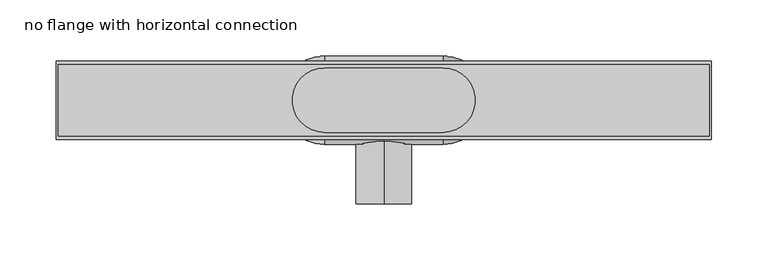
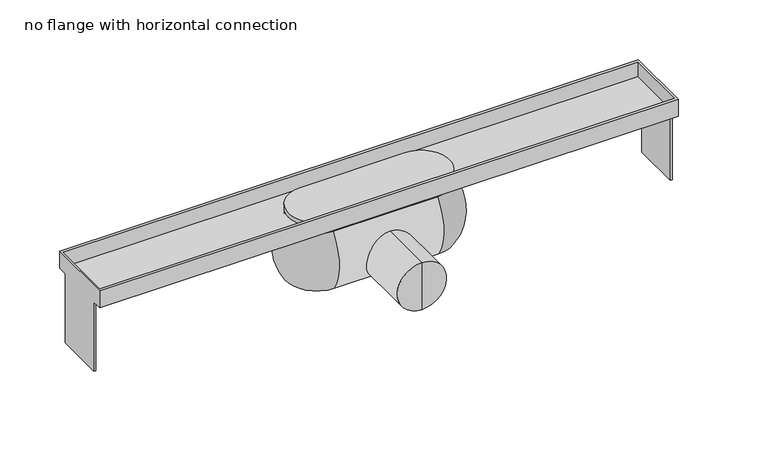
"""IFC4 building model written with IfcOpenShell, lengths in millimetres: sanitary terminal geometry, PF_UN_ShowerDrain C (INT)_ACO : no flange with horizontal connection."""

from ifc_helpers import new_model, si_unit, point, frame, origin, place, context, project, spatial, circle_curve, ellipse_curve, trimmed, faceted_brep, source, transform, mapped, element, save
from ifc_brep_helpers import plane_surface, cylinder_surface, revolved_surface, advanced_brep


def no_flange_with_horizontal_connection_4faf3c92(model_context):
    return source(origin(), model_context, "Body", "SolidModel", [
        advanced_brep(
        [(-52.8420194, -28.757915, 0.0), (-52.8420194, 28.757915, 0.0), (-52.8420194, 28.757915, -11.7509027), (-52.8420194, -28.757915, -11.7509027), (-52.8420194, 20.3622022, -75.4877048), (-52.8420194, -20.3622022, -75.4877048), (-52.8420194, -30.8518848, -71.7143523), (-52.8420194, 30.8518848, -71.7143523), (52.8420194, -28.757915, 0.0), (52.8420194, -28.757915, -11.7509027), (52.8420194, -30.8518848, -71.7143523), (52.8420194, -20.3622022, -75.4877048), (52.8420194, 20.3622022, -75.4877048), (52.8420194, 30.8518848, -71.7143523), (52.8420194, 28.757915, -11.7509027), (52.8420194, 28.757915, 0.0)],
        [
            (0, 1, circle_curve(frame((-52.8420194, 0.0, 0.0), z_axis=(0.0, 0.0, -1.0), x_axis=(0.0, 1.0, 0.0)), 28.757915)),
            (1, 2),
            (2, 3, circle_curve(frame((-52.8420194, 0.0, -11.7509027), z_axis=(0.0, 0.0, 1.0), x_axis=(0.0, 1.0, 0.0)), 28.757915)),
            (3, 0),
            (4, 5, circle_curve(frame((-52.8420194, 0.0, -75.4877048), z_axis=(0.0, 0.0, 1.0), x_axis=(0.0, 1.0, 0.0)), 20.3622022)),
            (5, 6, circle_curve(frame((-52.8420194, -20.3622022, -59.0206997), z_axis=(-1.0, 0.0, 0.0), x_axis=(0.0, 1.0, 0.0)), 16.4670051)),
            (6, 7, circle_curve(frame((-52.8420194, 0.0, -71.7143523), z_axis=(0.0, 0.0, -1.0), x_axis=(0.0, 1.0, 0.0)), 30.8518848)),
            (7, 4, circle_curve(frame((-52.8420194, 20.3622022, -59.0206997), z_axis=(-1.0, 0.0, 0.0), x_axis=(0.0, -1.0, 0.0)), 16.4670051)),
            (2, 7, circle_curve(frame((-52.8420194, -11.2789491, -43.1673071), z_axis=(-1.0, 0.0, 0.0), x_axis=(0.0, -1.0, 0.0)), 50.8914625)),
            (6, 3, circle_curve(frame((-52.8420194, 11.2789491, -43.1673071), z_axis=(-1.0, 0.0, 0.0), x_axis=(0.0, 1.0, 0.0)), 50.8914625)),
            (8, 0),
            (3, 9),
            (9, 8),
            (6, 10),
            (10, 9, circle_curve(frame((52.8420194, 11.2789491, -43.1673071), z_axis=(-1.0, 0.0, 0.0), x_axis=(0.0, 1.0, 0.0)), 50.8914625)),
            (5, 11),
            (11, 10, circle_curve(frame((52.8420194, -20.3622022, -59.0206997), z_axis=(-1.0, 0.0, 0.0), x_axis=(0.0, 1.0, 0.0)), 16.4670051)),
            (4, 12),
            (12, 11, circle_curve(frame((52.8420194, 0.0, -75.4877048), z_axis=(0.0, 0.0, -1.0), x_axis=(0.0, 1.0, 0.0)), 20.3622022)),
            (7, 13),
            (13, 12, circle_curve(frame((52.8420194, 20.3622022, -59.0206997), z_axis=(-1.0, 0.0, 0.0), x_axis=(0.0, -1.0, 0.0)), 16.4670051)),
            (2, 14),
            (14, 13, circle_curve(frame((52.8420194, -11.2789491, -43.1673071), z_axis=(-1.0, 0.0, 0.0), x_axis=(0.0, -1.0, 0.0)), 50.8914625)),
            (1, 15),
            (15, 14),
            (8, 15, circle_curve(frame((52.8420194, 0.0, 0.0), z_axis=(0.0, 0.0, 1.0), x_axis=(0.0, 1.0, 0.0)), 28.757915)),
            (9, 14, circle_curve(frame((52.8420194, 0.0, -11.7509027), z_axis=(0.0, 0.0, 1.0), x_axis=(0.0, 1.0, 0.0)), 28.757915)),
            (10, 13, circle_curve(frame((52.8420194, 0.0, -71.7143523), z_axis=(0.0, 0.0, 1.0), x_axis=(0.0, 1.0, 0.0)), 30.8518848)),
        ],
        [
            cylinder_surface(frame((-52.8420194, 0.0, 20.0), z_axis=(0.0, 0.0, 1.0), x_axis=(0.0, 1.0, 0.0)), 28.757915),
            revolved_surface(trimmed(ellipse_curve(frame((-52.8420194, 20.3622022, -59.0206997), z_axis=(1.0, 0.0, 0.0), x_axis=(0.0, -1.0, 0.0)), 16.4670051, 16.4670051), [point((-52.8420194, 20.3622022, -75.4877048))], [point((-52.8420194, 30.8518848, -71.7143523))], True, "CARTESIAN"), (-52.8420194, 0.0, 20.0), (0.0, 0.0, 1.0)),
            revolved_surface(trimmed(ellipse_curve(frame((-52.8420194, -11.2789491, -43.1673071), z_axis=(1.0, 0.0, 0.0), x_axis=(0.0, -1.0, 0.0)), 50.8914625, 50.8914625), [point((-52.8420194, 30.8518848, -71.7143523))], [point((-52.8420194, 28.757915, -11.7509027))], True, "CARTESIAN"), (-52.8420194, 0.0, 20.0), (0.0, 0.0, 1.0)),
            plane_surface(frame((52.8420194, -28.757915, 0.0), z_axis=(0.0, -1.0, 0.0), x_axis=(-1.0, 0.0, 0.0))),
            cylinder_surface(frame((-52.8420194, 11.2789491, -43.1673071), z_axis=(1.0, 0.0, 0.0), x_axis=(0.0, 1.0, 0.0)), 50.8914625),
            cylinder_surface(frame((-52.8420194, -20.3622022, -59.0206997), z_axis=(1.0, 0.0, 0.0), x_axis=(0.0, 1.0, 0.0)), 16.4670051),
            plane_surface(frame((52.8420194, -20.3622022, -75.4877048), z_axis=(0.0, 0.0, -1.0), x_axis=(-1.0, 0.0, 0.0))),
            cylinder_surface(frame((-52.8420194, 20.3622022, -59.0206997), z_axis=(1.0, 0.0, 0.0), x_axis=(0.0, -1.0, 0.0)), 16.4670051),
            cylinder_surface(frame((-52.8420194, -11.2789491, -43.1673071), z_axis=(1.0, 0.0, 0.0), x_axis=(0.0, -1.0, 0.0)), 50.8914625),
            plane_surface(frame((52.8420194, 28.757915, -11.7509027), z_axis=(0.0, 1.0, 0.0), x_axis=(-1.0, 0.0, 0.0))),
            plane_surface(frame((52.8420194, 28.757915, 0.0), z_axis=(0.0, 0.0, 1.0), x_axis=(-1.0, 0.0, 0.0))),
            cylinder_surface(frame((52.8420194, 0.0, 20.0), z_axis=(0.0, 0.0, 1.0), x_axis=(0.0, 1.0, 0.0)), 28.757915),
            revolved_surface(trimmed(ellipse_curve(frame((52.8420194, -11.2789491, -43.1673071), z_axis=(1.0, 0.0, 0.0), x_axis=(0.0, -1.0, 0.0)), 50.8914625, 50.8914625), [point((52.8420194, 30.8518848, -71.7143523))], [point((52.8420194, 28.757915, -11.7509027))], True, "CARTESIAN"), (52.8420194, 0.0, 20.0), (0.0, 0.0, 1.0)),
            revolved_surface(trimmed(ellipse_curve(frame((52.8420194, 20.3622022, -59.0206997), z_axis=(1.0, 0.0, 0.0), x_axis=(0.0, -1.0, 0.0)), 16.4670051, 16.4670051), [point((52.8420194, 20.3622022, -75.4877048))], [point((52.8420194, 30.8518848, -71.7143523))], True, "CARTESIAN"), (52.8420194, 0.0, 20.0), (0.0, 0.0, 1.0)),
        ],
        [
            (0, [[1, 2, 3, 4]]),
            (1, [[5, 6, 7, 8]]),
            (2, [[-3, 9, -7, 10]]),
            (3, [[11, -4, 12, 13]]),
            (4, [[-12, -10, 14, 15]]),
            (5, [[-14, -6, 16, 17]]),
            (6, [[-16, -5, 18, 19]]),
            (7, [[-18, -8, 20, 21]]),
            (8, [[-20, -9, 22, 23]]),
            (9, [[-22, -2, 24, 25]]),
            (10, [[-11, 26, -24, -1]]),
            (11, [[27, -25, -26, -13]]),
            (12, [[-27, -15, 28, -23]]),
            (13, [[-28, -17, -19, -21]]),
        ],
    ),
        advanced_brep(
        [(0.0, -92.5, -50.4496), (0.0, -92.5, -25.404795), (0.0, -92.5, -75.494405), (0.0, -23.2223331, -75.494405), (0.0, -23.2223331, -25.404795), (0.0, -23.2223331, -50.4496)],
        [
            (0, 1),
            (1, 2, circle_curve(frame((0.0, -92.5, -50.4496), z_axis=(0.0, -1.0, 0.0), x_axis=(0.0, 0.0, 1.0)), 25.044805)),
            (2, 0),
            (2, 1, circle_curve(frame((0.0, -92.5, -50.4496), z_axis=(0.0, -1.0, 0.0), x_axis=(0.0, 0.0, 1.0)), 25.044805)),
            (3, 4, circle_curve(frame((0.0, -23.2223331, -50.4496), z_axis=(0.0, 1.0, 0.0), x_axis=(0.0, 0.0, 1.0)), 25.044805)),
            (4, 5),
            (5, 3),
            (4, 3, circle_curve(frame((0.0, -23.2223331, -50.4496), z_axis=(0.0, 1.0, 0.0), x_axis=(0.0, 0.0, 1.0)), 25.044805)),
            (1, 4),
            (3, 2),
        ],
        [
            plane_surface(frame((0.0, -92.5, -50.4496), z_axis=(0.0, -1.0, 0.0), x_axis=(0.0, 0.0, 1.0))),
            plane_surface(frame((0.0, -23.2223331, -50.4496), z_axis=(0.0, 1.0, 0.0), x_axis=(0.0, 0.0, 1.0))),
            cylinder_surface(frame((0.0, -92.5, -50.4496), z_axis=(0.0, -1.0, 0.0), x_axis=(0.0, 0.0, 1.0)), 25.044805),
        ],
        [
            (0, [[1, 2, 3]]),
            (0, [[-3, 4, -1]]),
            (1, [[5, 6, 7]]),
            (1, [[8, -7, -6]]),
            (2, [[-2, 9, -5, 10]]),
            (2, [[-4, -10, -8, -9]]),
        ],
    ),
        faceted_brep([(292.5, 35.0, 12.0), (-292.5, 35.0, 12.0), (-292.5, -35.0, 12.0), (292.5, -35.0, 12.0), (-290.5, 32.0, 12.0), (290.5, 32.0, 12.0), (290.5, -32.0, 12.0), (-290.5, -32.0, 12.0), (292.5, -35.0, -6.0), (-292.5, -35.0, -6.0), (-292.5, -25.0, -6.0), (-290.5, -25.0, -6.0), (-290.5, 25.0, -6.0), (-292.5, 25.0, -6.0), (-292.5, 35.0, -6.0), (292.5, 35.0, -6.0), (292.5, 25.0, -6.0), (290.5, 25.0, -6.0), (290.5, -25.0, -6.0), (292.5, -25.0, -6.0), (-292.5, 25.0, -80.0), (-292.5, -25.0, -80.0), (292.5, -25.0, -80.0), (292.5, 25.0, -80.0), (290.5, 32.0, -4.0), (-290.5, 32.0, -4.0), (-290.5, -32.0, -4.0), (290.5, -32.0, -4.0), (290.5, -25.0, -80.0), (-290.5, -25.0, -80.0), (-290.5, 25.0, -80.0), (290.5, 25.0, -80.0)], [[[0, 1, 2, 3], [4, 5, 6, 7]], [[8, 9, 10, 11, 12, 13, 14, 15, 16, 17, 18, 19]], [[1, 0, 15, 14]], [[2, 1, 14, 13, 20, 21, 10, 9]], [[3, 2, 9, 8]], [[0, 3, 8, 19, 22, 23, 16, 15]], [[24, 25, 26, 27]], [[25, 24, 5, 4]], [[26, 25, 4, 7]], [[27, 26, 7, 6]], [[24, 27, 6, 5]], [[22, 19, 18, 28]], [[21, 29, 11, 10]], [[20, 13, 12, 30]], [[23, 31, 17, 16]], [[29, 21, 20, 30]], [[11, 29, 30, 12]], [[28, 18, 17, 31]], [[22, 28, 31, 23]]]),
    ])


if __name__ == "__main__":
    model = new_model("IFC4")
    model_context = context("Model", 3, world=origin())
    ifc_project = project(units=[si_unit("LENGTHUNIT", "METRE", prefix="MILLI")], contexts=[model_context])
    site = spatial("IfcSite", under=ifc_project)
    building = spatial("IfcBuilding", under=site)
    placement = place(None, origin())
    no_flange_with_horizontal_connection_shape = no_flange_with_horizontal_connection_4faf3c92(model_context)
    element("IfcSanitaryTerminal", 1, ObjectType="PF_UN_ShowerDrain C (INT)_ACO : no flange with horizontal connection", at=placement, inside=building, context=model_context, shape_type="MappedRepresentation", body=[
        mapped(no_flange_with_horizontal_connection_shape, transform((0.0, 0.0, 0.0), x_axis=(1.0, 0.0, 0.0), y_axis=(0.0, 1.0, 0.0), z_axis=(0.0, 0.0, 1.0))),
    ])
    save(model, "model.ifc")
